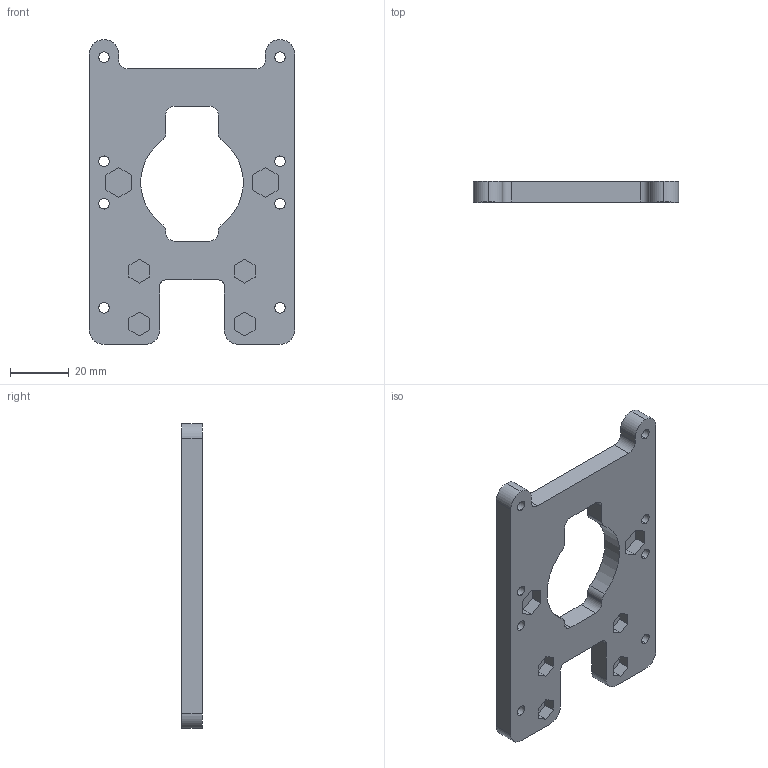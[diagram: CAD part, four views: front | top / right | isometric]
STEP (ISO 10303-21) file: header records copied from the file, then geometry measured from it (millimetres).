
FILE_DESCRIPTION (( 'STEP AP203' ), '1' );
FILE_NAME ('EXTRUDER CARRIAGE.STEP', '2012-08-20T19:11:57', ( '' ), ( '' ), 'SwSTEP 2.0', 'SolidWorks 2012', '' );
FILE_SCHEMA (( 'CONFIG_CONTROL_DESIGN' ));
Length unit declared in the file: millimetre
Products named in the file (1): EXTRUDER CARRIAGE
Bounding box: 70 x 7 x 104 mm (x, y, z)
Volume: 32494.1 mm3; surface area: 15536.5 mm2
Topology: 1 solids, 1 shells, 172 faces, 450 edges, 300 vertices
Faces by surface type: plane 122, cylinder 50
Entity records: 5387 total; most frequent: CARTESIAN_POINT 923, ORIENTED_EDGE 900, DIRECTION 896, EDGE_CURVE 450, VECTOR 350, LINE 350, VERTEX_POINT 300, AXIS2_PLACEMENT_3D 273
